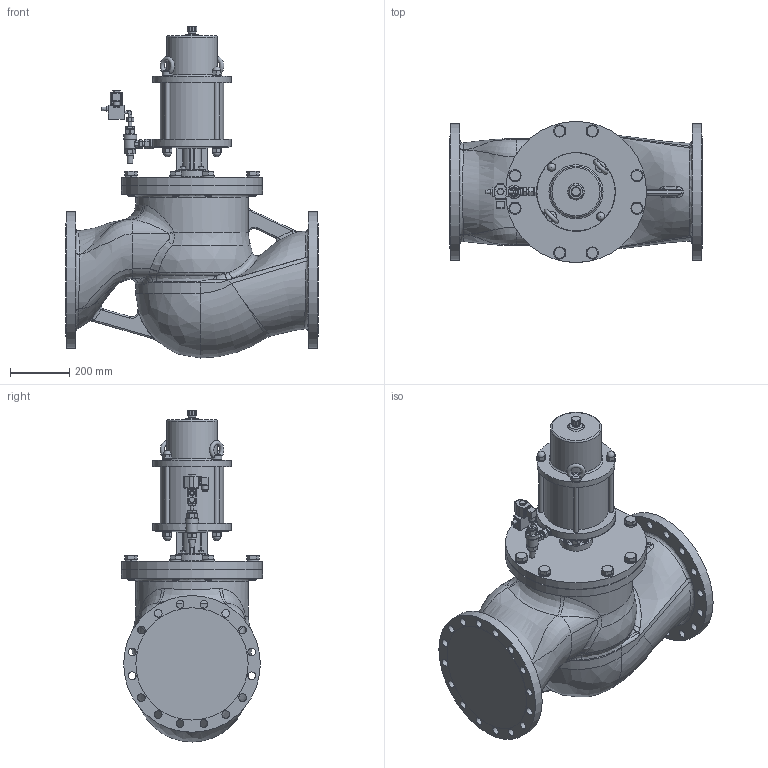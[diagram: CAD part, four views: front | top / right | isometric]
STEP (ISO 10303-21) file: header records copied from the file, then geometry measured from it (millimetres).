
FILE_DESCRIPTION((''),'2;1');
FILE_NAME('G:\CAD-Download\EPVA\1-4-EPVA\DN 300\1-4-EPVA 300-4.00.32.stp','2010-02-10T15:32:03',('hb'),(''),'Autodesk Inventor 2008','Autodesk Inventor 2008','');
FILE_SCHEMA(('AUTOMOTIVE_DESIGN { 1 0 10303 214 1 1 1 1 }'));
Length unit declared in the file: millimetre
Products named in the file (1): 1-4-EPVA 300-4.00
Bounding box: 850 x 475 x 1118.05 mm (x, y, z)
Volume: 129409682.8 mm3; surface area: 2769286.6 mm2
Topology: 1 solids, 3 shells, 1338 faces, 3476 edges, 2115 vertices
Faces by surface type: plane 613, cylinder 269, bspline 249, cone 149, torus 35, sphere 23
Full cylindrical faces by diameter (mm): 10 x8, 10.957 x1, 10.997 x1, 12 x1, 14 x1, 15 x1, 16 x16, 20.15 x2, 20.376 x1, 21.5 x1, 22 x1, 23 x1, 24 x24, 26.6 x1, 27 x3, 32.2 x1, 33.61 x8, 35 x2, 40 x1, 44 x1, 64.8 x1, 110 x1, 172 x1, 215 x1, 263 x1, 265 x1, 378 x2, 379 x1, 384.8 x1, 460 x2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
Entity records: 61245 total; most frequent: CARTESIAN_POINT 29961, ORIENTED_EDGE 6280, DIRECTION 5846, EDGE_CURVE 3140, AXIS2_PLACEMENT_3D 2327, VERTEX_POINT 2016, EDGE_LOOP 1774, FACE_OUTER_BOUND 1338
